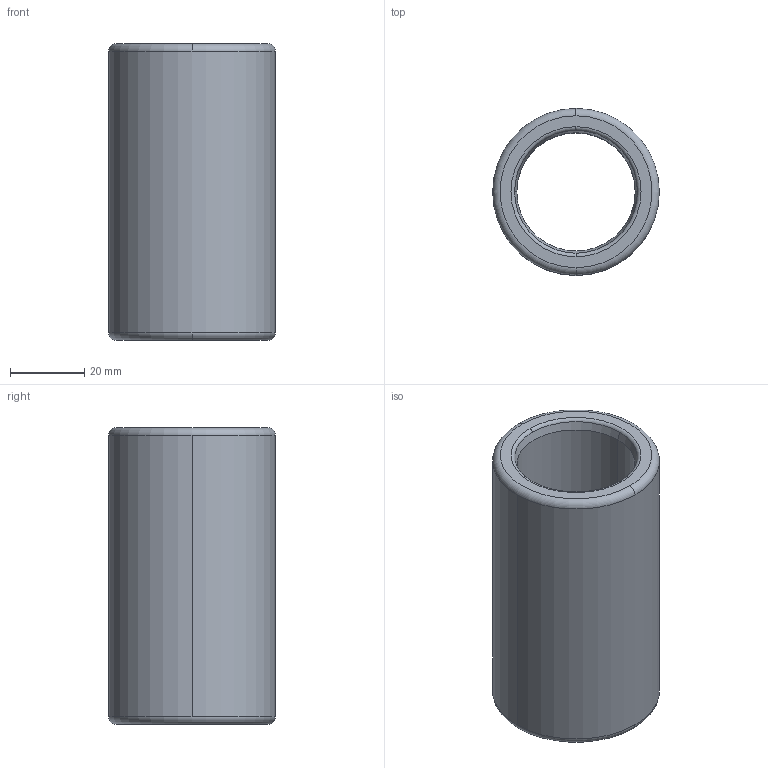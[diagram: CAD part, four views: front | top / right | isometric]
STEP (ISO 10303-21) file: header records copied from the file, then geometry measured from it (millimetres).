
FILE_DESCRIPTION((''),'2;1');
FILE_NAME('B30_024_080.stp','2009-01-12T09:56:46',(''),(''),'Mechanical Desktop 2009','Mechanical Desktop 2009',', , ');
FILE_SCHEMA(('CONFIG_CONTROL_DESIGN'));
Length unit declared in the file: millimetre
Products named in the file (2): Product; blmdl1
Assembly tree (1 placements, depth 2):
  Product
    blmdl1
Bounding box: 44.99 x 44.99 x 80 mm (x, y, z)
Volume: 62463.6 mm3; surface area: 20491 mm2
Topology: 1 solids, 1 shells, 18 faces, 48 edges, 32 vertices
Faces by surface type: torus 8, cylinder 4, cone 4, plane 2
Entity records: 705 total; most frequent: DIRECTION 128, CARTESIAN_POINT 100, ORIENTED_EDGE 96, AXIS2_PLACEMENT_3D 60, EDGE_CURVE 48, CIRCLE 40, VERTEX_POINT 32, EDGE_LOOP 20
